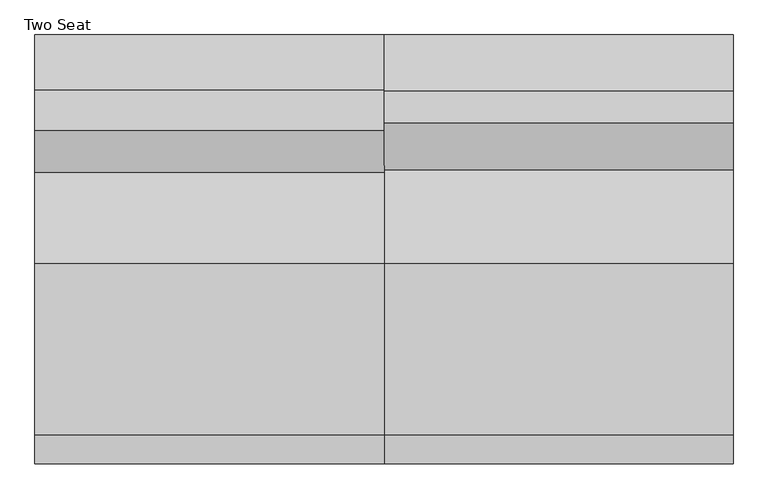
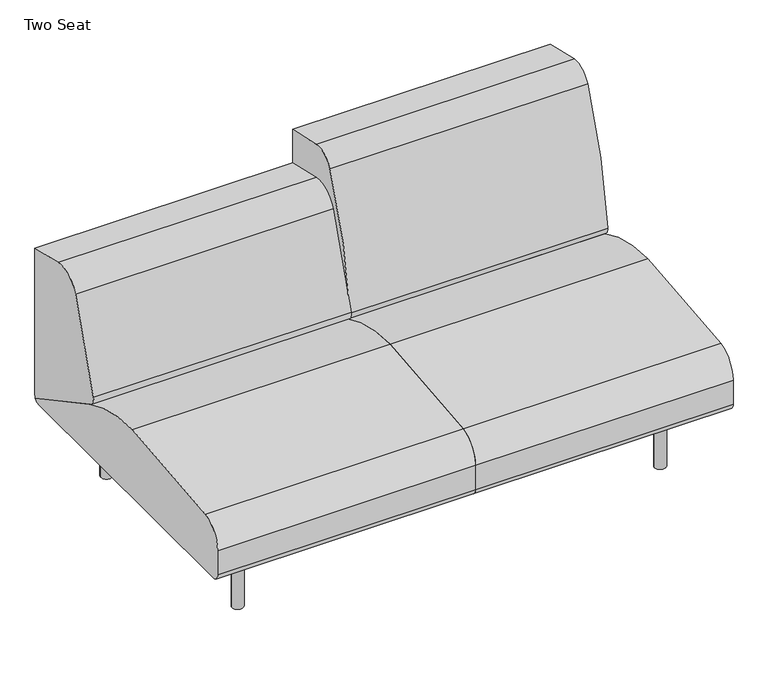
"""IFC4 building model written with IfcOpenShell, lengths in millimetres: furniture geometry, Coalesse_AM_Seating_LoungeChair_Sistema_LegBase_TwoSeat : Two Seat."""

from ifc_helpers import new_model, si_unit, point, frame, frame_2d, origin, origin_with_axes, place, context, project, spatial, polyline, circle_curve, trimmed, segment, composite_curve, outline, extrude, source, transform, mapped, element, save


def two_seat_d666f3c4(model_context):
    return source(origin(), model_context, "Body", "SweptSolid", [
        extrude(outline(composite_curve([segment(trimmed(circle_curve(frame_2d((989.1765227, 335.9943389)), 6.096), [point((995.2725227, 335.9943389))], [point((983.0805227, 335.9943389))], False, "CARTESIAN"), True, "CONTINUOUS"), segment(trimmed(circle_curve(frame_2d((989.1765227, 335.9943389)), 6.096), [point((983.0805227, 335.9943389))], [point((995.2725227, 335.9943389))], False, "CARTESIAN"), True, "CONTINUOUS")], self_intersect=False)), origin_with_axes(), (0.0, 0.0, 1.0), 4.3662291),
        extrude(outline(composite_curve([segment(trimmed(circle_curve(frame_2d((989.1765227, -327.2630889)), 6.096), [point((995.2725227, -327.2630889))], [point((983.0805227, -327.2630889))], False, "CARTESIAN"), True, "CONTINUOUS"), segment(trimmed(circle_curve(frame_2d((989.1765227, -327.2630889)), 6.096), [point((983.0805227, -327.2630889))], [point((995.2725227, -327.2630889))], False, "CARTESIAN"), True, "CONTINUOUS")], self_intersect=False)), origin_with_axes(), (0.0, 0.0, 1.0), 4.3662291),
        extrude(outline(composite_curve([segment(polyline([(157.0399209, 1001.756375), (201.7356243, 1001.756375)]), True, "CONTINUOUS"), segment(trimmed(circle_curve(frame_2d((201.7356243, 998.708375)), 3.048), [point((201.7356243, 1001.756375))], [point((204.7836243, 998.708375))], False, "CARTESIAN"), True, "CONTINUOUS"), segment(polyline([(204.7836243, 998.708375), (204.7836243, 979.366199)]), True, "CONTINUOUS"), segment(trimmed(circle_curve(frame_2d((201.7356243, 979.366199)), 3.048), [point((204.7836243, 979.366199))], [point((201.7356243, 976.318199))], False, "CARTESIAN"), True, "CONTINUOUS"), segment(polyline([(201.7356243, 976.318199), (157.1249936, 976.318199)]), True, "CONTINUOUS"), segment(trimmed(circle_curve(frame_2d((157.1249936, 979.4512718)), 3.1330728), [point((157.1249936, 976.318199))], [point((153.9919209, 979.4512718))], False, "CARTESIAN"), True, "CONTINUOUS"), segment(polyline([(153.9919209, 979.4512718), (153.9919209, 998.708375)]), True, "CONTINUOUS"), segment(trimmed(circle_curve(frame_2d((157.0399209, 998.708375)), 3.048), [point((153.9919209, 998.708375))], [point((157.0399209, 1001.756375))], False, "CARTESIAN"), True, "CONTINUOUS")], self_intersect=False)), frame((0.0, 222.3519802, 0.0), z_axis=(0.0, 1.0, 0.0), x_axis=(0.0, 0.0, 1.0)), (0.0, 0.0, 1.0), 92.6273161),
        extrude(outline(composite_curve([segment(polyline([(157.0399209, 1001.756375), (201.7356243, 1001.756375)]), True, "CONTINUOUS"), segment(trimmed(circle_curve(frame_2d((201.7356243, 998.708375)), 3.048), [point((201.7356243, 1001.756375))], [point((204.7836243, 998.708375))], False, "CARTESIAN"), True, "CONTINUOUS"), segment(polyline([(204.7836243, 998.708375), (204.7836243, 979.366199)]), True, "CONTINUOUS"), segment(trimmed(circle_curve(frame_2d((201.7356243, 979.366199)), 3.048), [point((204.7836243, 979.366199))], [point((201.7356243, 976.318199))], False, "CARTESIAN"), True, "CONTINUOUS"), segment(polyline([(201.7356243, 976.318199), (157.1249936, 976.318199)]), True, "CONTINUOUS"), segment(trimmed(circle_curve(frame_2d((157.1249936, 979.4512718)), 3.1330728), [point((157.1249936, 976.318199))], [point((153.9919209, 979.4512718))], False, "CARTESIAN"), True, "CONTINUOUS"), segment(polyline([(153.9919209, 979.4512718), (153.9919209, 998.708375)]), True, "CONTINUOUS"), segment(trimmed(circle_curve(frame_2d((157.0399209, 998.708375)), 3.048), [point((153.9919209, 998.708375))], [point((157.0399209, 1001.756375))], False, "CARTESIAN"), True, "CONTINUOUS")], self_intersect=False)), frame((0.0, -314.9792963, 0.0), z_axis=(0.0, 1.0, 0.0), x_axis=(0.0, 0.0, 1.0)), (0.0, 0.0, 1.0), 92.6273161),
        extrude(outline(composite_curve([segment(trimmed(circle_curve(frame_2d((176.3356606, 966.5259944)), 3.048), [point((179.3836606, 966.5259944))], [point((176.3356606, 963.4779944))], False, "CARTESIAN"), True, "CONTINUOUS"), segment(polyline([(176.3356606, 963.4779944), (157.0399209, 963.4779944)]), True, "CONTINUOUS"), segment(trimmed(circle_curve(frame_2d((157.0399209, 966.5259944)), 3.048), [point((157.0399209, 963.4779944))], [point((153.9919209, 966.5259944))], False, "CARTESIAN"), True, "CONTINUOUS"), segment(polyline([(153.9919209, 966.5259944), (153.9919209, 1011.2135501)]), True, "CONTINUOUS"), segment(trimmed(circle_curve(frame_2d((157.056462, 1011.2135501)), 3.0645412), [point((153.9919209, 1011.2135501))], [point((157.056462, 1014.2780913))], False, "CARTESIAN"), True, "CONTINUOUS"), segment(polyline([(157.056462, 1014.2780913), (176.3356606, 1014.2780913)]), True, "CONTINUOUS"), segment(trimmed(circle_curve(frame_2d((176.3356606, 1011.2300913)), 3.048), [point((176.3356606, 1014.2780913))], [point((179.3836606, 1011.2300913))], False, "CARTESIAN"), True, "CONTINUOUS"), segment(polyline([(179.3836606, 1011.2300913), (179.3836606, 966.5259944)]), True, "CONTINUOUS")], self_intersect=False)), frame((0.0, -222.3519802, 0.0), z_axis=(0.0, 1.0, 0.0), x_axis=(0.0, 0.0, 1.0)), (0.0, 0.0, 1.0), 444.7039604),
        extrude(outline(composite_curve([segment(trimmed(circle_curve(frame_2d((989.1765227, 332.3095741)), 16.51), [point((1005.6865227, 332.3095741))], [point((972.6665227, 332.3095741))], False, "CARTESIAN"), True, "CONTINUOUS"), segment(trimmed(circle_curve(frame_2d((989.1765227, 332.3095741)), 16.51), [point((972.6665227, 332.3095741))], [point((1005.6865227, 332.3095741))], False, "CARTESIAN"), True, "CONTINUOUS")], self_intersect=False)), frame((0.0, 0.0, 4.3662291), z_axis=(0.0, 0.0, 1.0), x_axis=(1.0, 0.0, 0.0)), (0.0, 0.0, 1.0), 200.1037709),
        extrude(outline(composite_curve([segment(trimmed(circle_curve(frame_2d((988.7796477, -327.5470741)), 16.51), [point((1005.2896477, -327.5470741))], [point((972.2696477, -327.5470741))], False, "CARTESIAN"), True, "CONTINUOUS"), segment(trimmed(circle_curve(frame_2d((988.7796477, -327.5470741)), 16.51), [point((972.2696477, -327.5470741))], [point((1005.2896477, -327.5470741))], False, "CARTESIAN"), True, "CONTINUOUS")], self_intersect=False)), frame((0.0, 0.0, 4.3662291), z_axis=(0.0, 0.0, 1.0), x_axis=(1.0, 0.0, 0.0)), (0.0, 0.0, 1.0), 200.1037709),
        extrude(outline(composite_curve([segment(polyline([(459.4795619, 673.6041325), (459.4795619, 228.1929806)]), True, "CONTINUOUS"), segment(trimmed(circle_curve(frame_2d((191.495971, 228.1929806)), 267.983591), [point((459.4795619, 228.1929806))], [point((458.9860775, 211.937276))], False, "CARTESIAN"), True, "CONTINUOUS"), segment(polyline([(458.9860775, 211.937276), (177.4990556, 364.1028799)]), True, "CONTINUOUS"), segment(trimmed(circle_curve(frame_2d((189.5778307, 386.4470781)), 25.4), [point((177.4990556, 364.1028799))], [point((164.9600055, 392.7018911))], False, "CARTESIAN"), True, "CONTINUOUS"), segment(trimmed(circle_curve(frame_2d((1918.112812, -52.7331923)), 1808.8552115), [point((164.9600055, 392.7018911))], [point((254.1018253, 656.5090883))], False, "CARTESIAN"), True, "CONTINUOUS"), segment(trimmed(circle_curve(frame_2d((324.2001043, 626.6314831)), 76.2), [point((254.1018253, 656.5090883))], [point((341.3413746, 700.8784821))], False, "CARTESIAN"), True, "CONTINUOUS"), segment(polyline([(341.3413746, 700.8784821), (459.4795619, 673.6041325)]), True, "CONTINUOUS")], self_intersect=False)), frame((-374.8034773, 0.0, 0.0), z_axis=(1.0, 0.0, 0.0), x_axis=(0.0, 1.0, 0.0)), (0.0, 0.0, 1.0), 749.3),
        extrude(outline(composite_curve([segment(trimmed(circle_curve(frame_2d((-438.9184381, 226.822)), 22.352), [point((-438.9184381, 204.47))], [point((-461.2704381, 226.822))], False, "CARTESIAN"), True, "CONTINUOUS"), segment(polyline([(-461.2704381, 226.822), (-461.2704381, 301.4421993)]), True, "CONTINUOUS"), segment(trimmed(circle_curve(frame_2d((-385.0704381, 301.4421993)), 76.2), [point((-461.2704381, 301.4421993))], [point((-398.9277015, 376.3716077))], False, "CARTESIAN"), True, "CONTINUOUS"), segment(trimmed(circle_curve(frame_2d((2.2103559, -1792.6740646)), 2205.8265729), [point((-398.9277015, 376.3716077))], [point((-31.1968175, 412.8995185))], False, "CARTESIAN"), True, "CONTINUOUS"), segment(trimmed(circle_curve(frame_2d((-24.5128424, -28.3829182)), 441.333054), [point((-31.1968175, 412.8995185))], [point((184.5757008, 360.2774035))], False, "CARTESIAN"), True, "CONTINUOUS"), segment(polyline([(184.5757008, 360.2774035), (458.9860775, 211.937276)]), True, "CONTINUOUS"), segment(trimmed(circle_curve(frame_2d((442.3266309, 226.7871991)), 22.3171991), [point((458.9860775, 211.937276))], [point((442.3266309, 204.47))], False, "CARTESIAN"), True, "CONTINUOUS"), segment(polyline([(442.3266309, 204.47), (-438.9184381, 204.47)]), True, "CONTINUOUS")], self_intersect=False)), frame((-374.8034773, 0.0, 0.0), z_axis=(1.0, 0.0, 0.0), x_axis=(0.0, 1.0, 0.0)), (0.0, 0.0, 1.0), 749.3),
        extrude(outline(composite_curve([segment(polyline([(459.4795619, 775.8234697), (459.4795619, 228.1929806)]), True, "CONTINUOUS"), segment(trimmed(circle_curve(frame_2d((191.495971, 228.1929806)), 267.983591), [point((459.4795619, 228.1929806))], [point((458.9860775, 211.937276))], False, "CARTESIAN"), True, "CONTINUOUS"), segment(polyline([(458.9860775, 211.937276), (183.8457951, 360.6719742)]), True, "CONTINUOUS"), segment(trimmed(circle_curve(frame_2d((195.9245701, 383.0161724)), 25.4), [point((183.8457951, 360.6719742))], [point((170.6161698, 385.1713698))], False, "CARTESIAN"), True, "CONTINUOUS"), segment(trimmed(circle_curve(frame_2d((1327.5544182, 286.6495247)), 1161.1256023), [point((170.6161698, 385.1713698))], [point((271.1088001, 768.4537592))], False, "CARTESIAN"), True, "CONTINUOUS"), segment(trimmed(circle_curve(frame_2d((326.5730192, 743.158661)), 60.96), [point((271.1088001, 768.4537592))], [point((339.9143278, 802.6408523))], False, "CARTESIAN"), True, "CONTINUOUS"), segment(polyline([(339.9143278, 802.6408523), (459.4795619, 775.8234697)]), True, "CONTINUOUS")], self_intersect=False)), frame((374.4965227, 0.0, 0.0), z_axis=(1.0, 0.0, 0.0), x_axis=(0.0, 1.0, 0.0)), (0.0, 0.0, 1.0), 749.3),
        extrude(outline(composite_curve([segment(trimmed(circle_curve(frame_2d((-438.9184381, 226.822)), 22.352), [point((-438.9184381, 204.47))], [point((-461.2704381, 226.822))], False, "CARTESIAN"), True, "CONTINUOUS"), segment(polyline([(-461.2704381, 226.822), (-461.2704381, 301.4421993)]), True, "CONTINUOUS"), segment(trimmed(circle_curve(frame_2d((-385.0704381, 301.4421993)), 76.2), [point((-461.2704381, 301.4421993))], [point((-398.9277015, 376.3716077))], False, "CARTESIAN"), True, "CONTINUOUS"), segment(trimmed(circle_curve(frame_2d((2.2103559, -1792.6740646)), 2205.8265729), [point((-398.9277015, 376.3716077))], [point((-31.1968175, 412.8995185))], False, "CARTESIAN"), True, "CONTINUOUS"), segment(trimmed(circle_curve(frame_2d((-24.5128424, -28.3829182)), 441.333054), [point((-31.1968175, 412.8995185))], [point((184.5757008, 360.2774035))], False, "CARTESIAN"), True, "CONTINUOUS"), segment(polyline([(184.5757008, 360.2774035), (458.9860775, 211.937276)]), True, "CONTINUOUS"), segment(trimmed(circle_curve(frame_2d((442.3266309, 226.7871991)), 22.3171991), [point((458.9860775, 211.937276))], [point((442.3266309, 204.47))], False, "CARTESIAN"), True, "CONTINUOUS"), segment(polyline([(442.3266309, 204.47), (-438.9184381, 204.47)]), True, "CONTINUOUS")], self_intersect=False)), frame((374.4965227, 0.0, 0.0), z_axis=(1.0, 0.0, 0.0), x_axis=(0.0, 1.0, 0.0)), (0.0, 0.0, 1.0), 749.3),
        extrude(outline(composite_curve([segment(trimmed(circle_curve(frame_2d((-240.1834773, 335.9943389)), 6.096), [point((-246.2794773, 335.9943389))], [point((-234.0874773, 335.9943389))], False, "CARTESIAN"), True, "CONTINUOUS"), segment(trimmed(circle_curve(frame_2d((-240.1834773, 335.9943389)), 6.096), [point((-234.0874773, 335.9943389))], [point((-246.2794773, 335.9943389))], False, "CARTESIAN"), True, "CONTINUOUS")], self_intersect=False)), origin_with_axes(), (0.0, 0.0, 1.0), 4.3662291),
        extrude(outline(composite_curve([segment(trimmed(circle_curve(frame_2d((-240.1834773, -327.2630889)), 6.096), [point((-246.2794773, -327.2630889))], [point((-234.0874773, -327.2630889))], False, "CARTESIAN"), True, "CONTINUOUS"), segment(trimmed(circle_curve(frame_2d((-240.1834773, -327.2630889)), 6.096), [point((-234.0874773, -327.2630889))], [point((-246.2794773, -327.2630889))], False, "CARTESIAN"), True, "CONTINUOUS")], self_intersect=False)), origin_with_axes(), (0.0, 0.0, 1.0), 4.3662291),
        extrude(outline(composite_curve([segment(trimmed(circle_curve(frame_2d((157.0399209, -249.7153296)), 3.048), [point((157.0399209, -252.7633296))], [point((153.9919209, -249.7153296))], False, "CARTESIAN"), True, "CONTINUOUS"), segment(polyline([(153.9919209, -249.7153296), (153.9919209, -230.4582264)]), True, "CONTINUOUS"), segment(trimmed(circle_curve(frame_2d((157.1249936, -230.4582264)), 3.1330728), [point((153.9919209, -230.4582264))], [point((157.1249936, -227.3251537))], False, "CARTESIAN"), True, "CONTINUOUS"), segment(polyline([(157.1249936, -227.3251537), (201.7356243, -227.3251537)]), True, "CONTINUOUS"), segment(trimmed(circle_curve(frame_2d((201.7356243, -230.3731537)), 3.048), [point((201.7356243, -227.3251537))], [point((204.7836243, -230.3731537))], False, "CARTESIAN"), True, "CONTINUOUS"), segment(polyline([(204.7836243, -230.3731537), (204.7836243, -249.7153296)]), True, "CONTINUOUS"), segment(trimmed(circle_curve(frame_2d((201.7356243, -249.7153296)), 3.048), [point((204.7836243, -249.7153296))], [point((201.7356243, -252.7633296))], False, "CARTESIAN"), True, "CONTINUOUS"), segment(polyline([(201.7356243, -252.7633296), (157.0399209, -252.7633296)]), True, "CONTINUOUS")], self_intersect=False)), frame((0.0, 222.3519802, 0.0), z_axis=(0.0, 1.0, 0.0), x_axis=(0.0, 0.0, 1.0)), (0.0, 0.0, 1.0), 92.6273161),
        extrude(outline(composite_curve([segment(trimmed(circle_curve(frame_2d((157.0399209, -249.7153296)), 3.048), [point((157.0399209, -252.7633296))], [point((153.9919209, -249.7153296))], False, "CARTESIAN"), True, "CONTINUOUS"), segment(polyline([(153.9919209, -249.7153296), (153.9919209, -230.4582264)]), True, "CONTINUOUS"), segment(trimmed(circle_curve(frame_2d((157.1249936, -230.4582264)), 3.1330728), [point((153.9919209, -230.4582264))], [point((157.1249936, -227.3251537))], False, "CARTESIAN"), True, "CONTINUOUS"), segment(polyline([(157.1249936, -227.3251537), (201.7356243, -227.3251537)]), True, "CONTINUOUS"), segment(trimmed(circle_curve(frame_2d((201.7356243, -230.3731537)), 3.048), [point((201.7356243, -227.3251537))], [point((204.7836243, -230.3731537))], False, "CARTESIAN"), True, "CONTINUOUS"), segment(polyline([(204.7836243, -230.3731537), (204.7836243, -249.7153296)]), True, "CONTINUOUS"), segment(trimmed(circle_curve(frame_2d((201.7356243, -249.7153296)), 3.048), [point((204.7836243, -249.7153296))], [point((201.7356243, -252.7633296))], False, "CARTESIAN"), True, "CONTINUOUS"), segment(polyline([(201.7356243, -252.7633296), (157.0399209, -252.7633296)]), True, "CONTINUOUS")], self_intersect=False)), frame((0.0, -314.9792963, 0.0), z_axis=(0.0, 1.0, 0.0), x_axis=(0.0, 0.0, 1.0)), (0.0, 0.0, 1.0), 92.6273161),
        extrude(outline(composite_curve([segment(polyline([(179.3836606, -217.532949), (179.3836606, -262.2370459)]), True, "CONTINUOUS"), segment(trimmed(circle_curve(frame_2d((176.3356606, -262.2370459)), 3.048), [point((179.3836606, -262.2370459))], [point((176.3356606, -265.2850459))], False, "CARTESIAN"), True, "CONTINUOUS"), segment(polyline([(176.3356606, -265.2850459), (157.056462, -265.2850459)]), True, "CONTINUOUS"), segment(trimmed(circle_curve(frame_2d((157.056462, -262.2205047)), 3.0645412), [point((157.056462, -265.2850459))], [point((153.9919209, -262.2205047))], False, "CARTESIAN"), True, "CONTINUOUS"), segment(polyline([(153.9919209, -262.2205047), (153.9919209, -217.532949)]), True, "CONTINUOUS"), segment(trimmed(circle_curve(frame_2d((157.0399209, -217.532949)), 3.048), [point((153.9919209, -217.532949))], [point((157.0399209, -214.484949))], False, "CARTESIAN"), True, "CONTINUOUS"), segment(polyline([(157.0399209, -214.484949), (176.3356606, -214.484949)]), True, "CONTINUOUS"), segment(trimmed(circle_curve(frame_2d((176.3356606, -217.532949)), 3.048), [point((176.3356606, -214.484949))], [point((179.3836606, -217.532949))], False, "CARTESIAN"), True, "CONTINUOUS")], self_intersect=False)), frame((0.0, -222.3519802, 0.0), z_axis=(0.0, 1.0, 0.0), x_axis=(0.0, 0.0, 1.0)), (0.0, 0.0, 1.0), 444.7039604),
        extrude(outline(composite_curve([segment(trimmed(circle_curve(frame_2d((-240.1834773, 332.3095741)), 16.51), [point((-256.6934773, 332.3095741))], [point((-223.6734773, 332.3095741))], False, "CARTESIAN"), True, "CONTINUOUS"), segment(trimmed(circle_curve(frame_2d((-240.1834773, 332.3095741)), 16.51), [point((-223.6734773, 332.3095741))], [point((-256.6934773, 332.3095741))], False, "CARTESIAN"), True, "CONTINUOUS")], self_intersect=False)), frame((0.0, 0.0, 4.3662291), z_axis=(0.0, 0.0, 1.0), x_axis=(1.0, 0.0, 0.0)), (0.0, 0.0, 1.0), 200.1037709),
        extrude(outline(composite_curve([segment(trimmed(circle_curve(frame_2d((-239.7866023, -327.5470741)), 16.51), [point((-256.2966023, -327.5470741))], [point((-223.2766023, -327.5470741))], False, "CARTESIAN"), True, "CONTINUOUS"), segment(trimmed(circle_curve(frame_2d((-239.7866023, -327.5470741)), 16.51), [point((-223.2766023, -327.5470741))], [point((-256.2966023, -327.5470741))], False, "CARTESIAN"), True, "CONTINUOUS")], self_intersect=False)), frame((0.0, 0.0, 4.3662291), z_axis=(0.0, 0.0, 1.0), x_axis=(1.0, 0.0, 0.0)), (0.0, 0.0, 1.0), 200.1037709),
    ])


if __name__ == "__main__":
    model = new_model("IFC4")
    model_context = context("Model", 3, world=origin())
    ifc_project = project(units=[si_unit("LENGTHUNIT", "METRE", prefix="MILLI")], contexts=[model_context])
    site = spatial("IfcSite", under=ifc_project)
    building = spatial("IfcBuilding", under=site)
    placement = place(None, origin())
    two_seat_shape = two_seat_d666f3c4(model_context)
    element("IfcFurniture", 1, ObjectType="Coalesse_AM_Seating_LoungeChair_Sistema_LegBase_TwoSeat : Two Seat", at=placement, inside=building, context=model_context, shape_type="MappedRepresentation", body=[
        mapped(two_seat_shape, transform((0.0, 0.0, 0.0), x_axis=(1.0, 0.0, 0.0), y_axis=(0.0, 1.0, 0.0), z_axis=(0.0, 0.0, 1.0))),
    ])
    save(model, "model.ifc")
